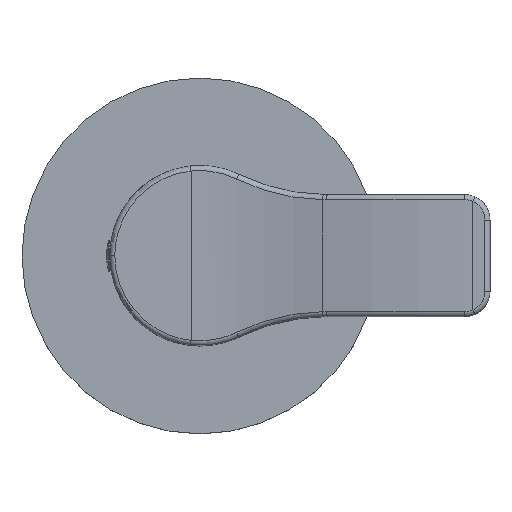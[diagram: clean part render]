
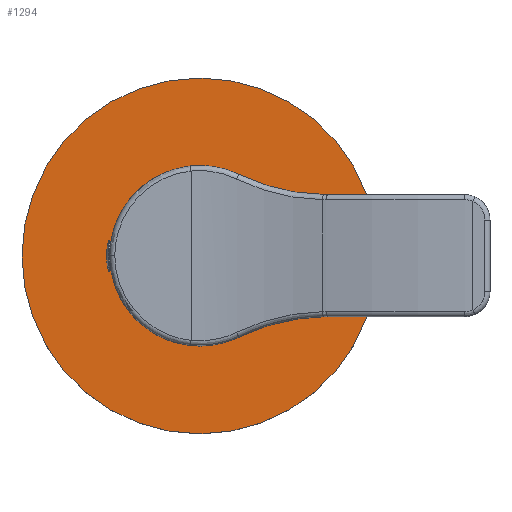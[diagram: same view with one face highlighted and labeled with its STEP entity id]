
A CAD part, top view. The second image highlights one B-rep face of the part: STEP entity #1294.
In plain terms, the highlighted planar face has unit normal (0, 0, 1).
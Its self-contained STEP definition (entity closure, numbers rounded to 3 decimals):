
#308=CARTESIAN_POINT('',(0.,0.,-2.8));
#309=DIRECTION('',(0.,0.,-1.));
#310=DIRECTION('',(-1.,0.,0.));
#311=AXIS2_PLACEMENT_3D('',#308,#309,#310);
#313=CARTESIAN_POINT('',(0.,0.,-2.8));
#314=DIRECTION('',(0.,0.,1.));
#315=DIRECTION('',(-1.,0.,0.));
#316=AXIS2_PLACEMENT_3D('',#313,#314,#315);
#318=CARTESIAN_POINT('',(0.,0.,-2.8));
#319=DIRECTION('',(0.,0.,1.));
#320=DIRECTION('',(1.,0.,0.));
#321=AXIS2_PLACEMENT_3D('',#318,#319,#320);
#336=CARTESIAN_POINT('',(0.,0.,-2.8));
#337=DIRECTION('',(0.,0.,1.));
#338=DIRECTION('',(-1.,0.,0.));
#339=AXIS2_PLACEMENT_3D('',#336,#337,#338);
#572=CARTESIAN_POINT('',(-35.,0.,-2.8));
#574=VERTEX_POINT('',#572);
#580=CARTESIAN_POINT('',(35.,0.,-2.8));
#582=VERTEX_POINT('',#580);
#628=CARTESIAN_POINT('',(16.5,0.,-2.8));
#629=CARTESIAN_POINT('',(-16.5,0.,-2.8));
#630=VERTEX_POINT('',#628);
#631=VERTEX_POINT('',#629);
#1279=CARTESIAN_POINT('',(0.,0.,-2.8));
#1280=DIRECTION('',(0.,0.,1.));
#1281=DIRECTION('',(1.,0.,0.));
#1282=AXIS2_PLACEMENT_3D('',#1279,#1280,#1281);
#1283=PLANE('',#1282);
#1284=ORIENTED_EDGE('',*,*,#1265,.F.);
#1285=ORIENTED_EDGE('',*,*,#1247,.T.);
#1286=EDGE_LOOP('',(#1284,#1285));
#1287=FACE_OUTER_BOUND('',#1286,.F.);
#1289=ORIENTED_EDGE('',*,*,#1288,.T.);
#1291=ORIENTED_EDGE('',*,*,#1290,.T.);
#1292=EDGE_LOOP('',(#1289,#1291));
#1293=FACE_BOUND('',#1292,.F.);
#312=CIRCLE('',#311,35.);
#317=CIRCLE('',#316,35.);
#322=CIRCLE('',#321,16.5);
#340=CIRCLE('',#339,16.5);
#1247=EDGE_CURVE('',#574,#582,#312,.T.);
#1265=EDGE_CURVE('',#574,#582,#317,.T.);
#1288=EDGE_CURVE('',#630,#631,#322,.T.);
#1290=EDGE_CURVE('',#631,#630,#340,.T.);
#1294=ADVANCED_FACE('',(#1287,#1293),#1283,.T.);
